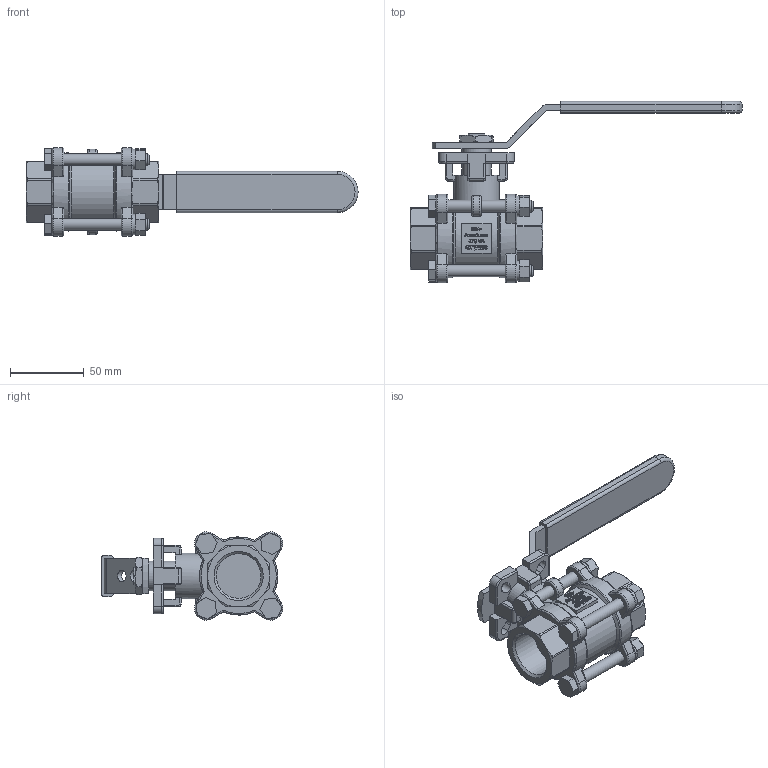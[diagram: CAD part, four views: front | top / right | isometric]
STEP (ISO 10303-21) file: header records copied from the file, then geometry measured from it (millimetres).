
FILE_DESCRIPTION((''),'2;1');
FILE_NAME('K:\Inventor\1 Artikel\11) Muffen-Kugelhähne\11a) manuell\Econosto\470-VA, 7444ISO\470-VA, G1\470-VA, G1, 3D\470-VA, G1, PN68, HH, 3D.stp','2019-10-24T09:36:45',('claudia'),(''),'Autodesk Inventor 2013','Autodesk Inventor 2013','');
FILE_SCHEMA(('AUTOMOTIVE_DESIGN { 1 0 10303 214 1 1 1 1 }'));
Length unit declared in the file: millimetre
Products named in the file (1): Bauteil4
Bounding box: 225 x 123.01 x 59.82 mm (x, y, z)
Volume: 231200.2 mm3; surface area: 61006.6 mm2
Topology: 1 solids, 1 shells, 1545 faces, 4085 edges, 2659 vertices
Faces by surface type: plane 882, bspline 439, cylinder 152, cone 36, torus 36
Full cylindrical faces by diameter (mm): 8 x10, 8.5 x10, 14 x4, 20 x1, 30.291 x2, 31 x1, 34 x1, 53 x2
Entity records: 52181 total; most frequent: CARTESIAN_POINT 16431, ORIENTED_EDGE 8064, DIRECTION 5709, EDGE_CURVE 4032, VERTEX_POINT 2647, VECTOR 2625, LINE 2625, EDGE_LOOP 1735
